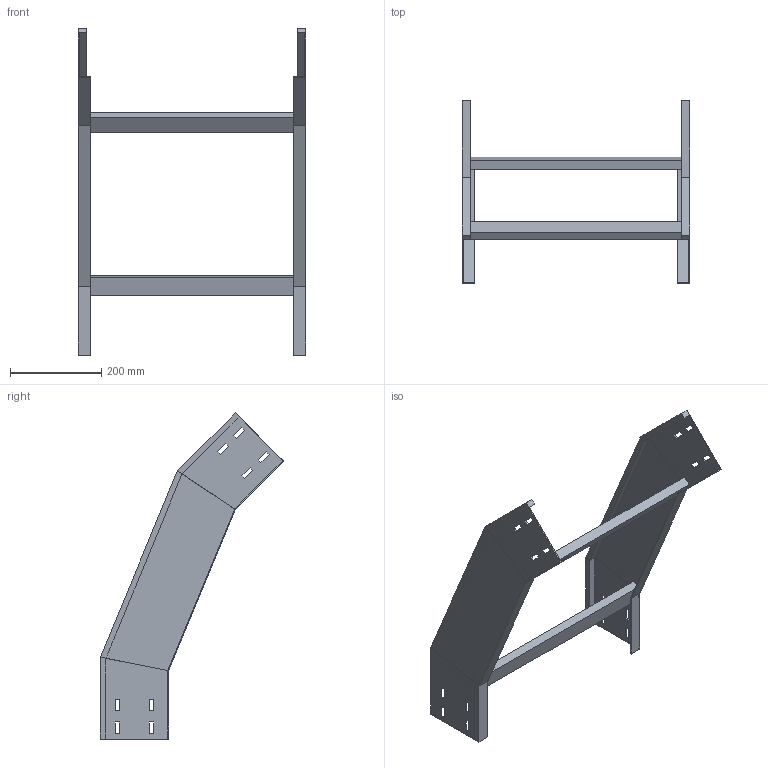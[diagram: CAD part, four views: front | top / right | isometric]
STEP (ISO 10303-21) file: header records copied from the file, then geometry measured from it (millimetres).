
FILE_DESCRIPTION (( 'STEP AP214' ), '1' );
FILE_NAME ('34J5F500.step', '2025-02-21T16:22:07', ( '' ), ( '' ), 'SwSTEP 2.0', 'SolidWorks 2023', '' );
FILE_SCHEMA (( 'AUTOMOTIVE_DESIGN' ));
Length unit declared in the file: millimetre
Products named in the file (3): 34J5F500; TRAVERSINO_500; LONGH.DISCESA_45°_H150_R500
Assembly tree (4 placements, depth 2):
  34J5F500
    LONGH.DISCESA_45°_H150_R500  x2
    TRAVERSINO_500  x2
Bounding box: 500 x 402.63 x 715.98 mm (x, y, z)
Volume: 1616572 mm3; surface area: 691385.9 mm2
Topology: 4 solids, 4 shells, 128 faces, 328 edges, 208 vertices
Faces by surface type: plane 128
Entity records: 2016 total; most frequent: CARTESIAN_POINT 339, ORIENTED_EDGE 328, DIRECTION 306, LINE 164, EDGE_CURVE 164, VECTOR 164, VERTEX_POINT 104, EDGE_LOOP 80
